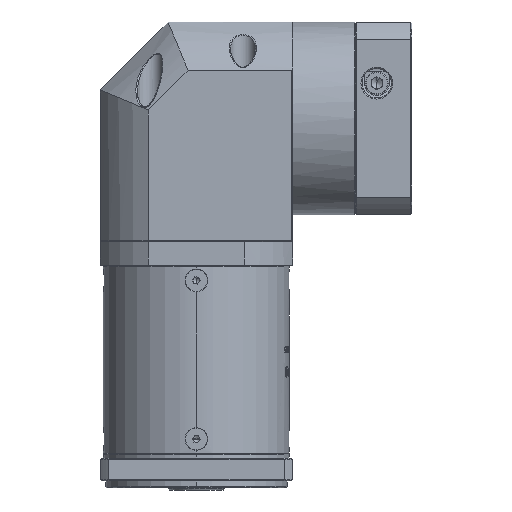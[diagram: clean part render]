
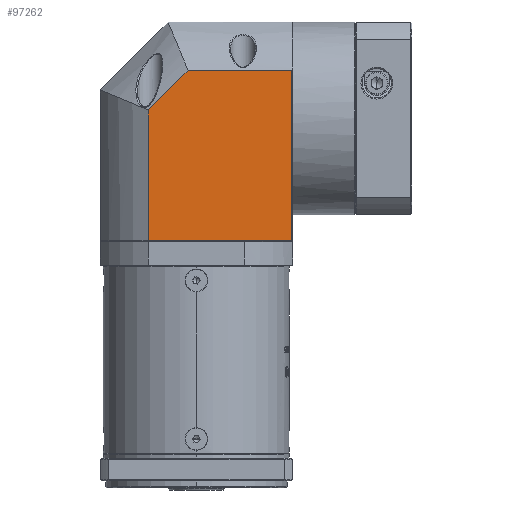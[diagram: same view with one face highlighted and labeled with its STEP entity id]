
A CAD part, front view. The second image highlights one B-rep face of the part: STEP entity #97262.
In plain terms, the highlighted planar face has unit normal (0, -1, 0).
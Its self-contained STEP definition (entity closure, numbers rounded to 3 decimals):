
#100 = CARTESIAN_POINT ( 'NONE',  ( -17.104, 108.276, -58.338 ) ) ;
#3368 = AXIS2_PLACEMENT_3D ( 'NONE', #150833, #71757, #164108 ) ;
#15007 = LINE ( 'NONE', #122607, #151302 ) ;
#20323 = ORIENTED_EDGE ( 'NONE', *, *, #117539, .T. ) ;
#22150 = VERTEX_POINT ( 'NONE', #162968 ) ;
#23579 = CARTESIAN_POINT ( 'NONE',  ( -17.104, 108.276, 38.162 ) ) ;
#29103 = EDGE_CURVE ( 'NONE', #22150, #75981, #32127, .T. ) ;
#32127 = LINE ( 'NONE', #44331, #168498 ) ;
#32552 = CARTESIAN_POINT ( 'NONE',  ( 46.109, 108.276, 16.875 ) ) ;
#40666 = EDGE_CURVE ( 'NONE', #75981, #123464, #84063, .T. ) ;
#44331 = CARTESIAN_POINT ( 'NONE',  ( 46.609, 108.276, 16.875 ) ) ;
#46480 = LINE ( 'NONE', #23579, #116862 ) ;
#49585 = DIRECTION ( 'NONE',  ( 0., 0., 1. ) ) ;
#55721 = CARTESIAN_POINT ( 'NONE',  ( 46.109, 108.276, 38.162 ) ) ;
#56626 = DIRECTION ( 'NONE',  ( 1., 0., 0. ) ) ;
#60748 = EDGE_CURVE ( 'NONE', #102913, #73977, #46480, .T. ) ;
#66500 = CARTESIAN_POINT ( 'NONE',  ( -17.104, 108.276, -0.656 ) ) ;
#68423 = DIRECTION ( 'NONE',  ( 0., 0., -1. ) ) ;
#71405 = ORIENTED_EDGE ( 'NONE', *, *, #60748, .F. ) ;
#71757 = DIRECTION ( 'NONE',  ( 0., 1., 0. ) ) ;
#72148 = ORIENTED_EDGE ( 'NONE', *, *, #113662, .F. ) ;
#73643 = ORIENTED_EDGE ( 'NONE', *, *, #40666, .F. ) ;
#73977 = VERTEX_POINT ( 'NONE', #66500 ) ;
#75981 = VERTEX_POINT ( 'NONE', #32552 ) ;
#84063 = LINE ( 'NONE', #55721, #168716 ) ;
#93700 = VECTOR ( 'NONE', #123065, 1000. ) ;
#97262 = ADVANCED_FACE ( 'NONE', ( #131449 ), #163002, .F. ) ;
#102913 = VERTEX_POINT ( 'NONE', #100 ) ;
#113662 = EDGE_CURVE ( 'NONE', #73977, #22150, #163854, .T. ) ;
#116862 = VECTOR ( 'NONE', #49585, 1000. ) ;
#117539 = EDGE_CURVE ( 'NONE', #102913, #123464, #15007, .T. ) ;
#122607 = CARTESIAN_POINT ( 'NONE',  ( 46.609, 108.276, -58.338 ) ) ;
#123065 = DIRECTION ( 'NONE',  ( 0.707, 0., 0.707 ) ) ;
#123464 = VERTEX_POINT ( 'NONE', #155357 ) ;
#123573 = DIRECTION ( 'NONE',  ( 1., 0., 0. ) ) ;
#131449 = FACE_OUTER_BOUND ( 'NONE', #141398, .T. ) ;
#137914 = ORIENTED_EDGE ( 'NONE', *, *, #29103, .F. ) ;
#141398 = EDGE_LOOP ( 'NONE', ( #20323, #73643, #137914, #72148, #71405 ) ) ;
#148892 = CARTESIAN_POINT ( 'NONE',  ( -17.104, 108.276, -0.656 ) ) ;
#150833 = CARTESIAN_POINT ( 'NONE',  ( 46.609, 108.276, 38.162 ) ) ;
#151302 = VECTOR ( 'NONE', #56626, 1000. ) ;
#155357 = CARTESIAN_POINT ( 'NONE',  ( 46.109, 108.276, -58.338 ) ) ;
#162968 = CARTESIAN_POINT ( 'NONE',  ( 0.426, 108.276, 16.875 ) ) ;
#163002 = PLANE ( 'NONE',  #3368 ) ;
#163854 = LINE ( 'NONE', #148892, #93700 ) ;
#164108 = DIRECTION ( 'NONE',  ( -1., 0., 0. ) ) ;
#168498 = VECTOR ( 'NONE', #123573, 1000. ) ;
#168716 = VECTOR ( 'NONE', #68423, 1000. ) ;
